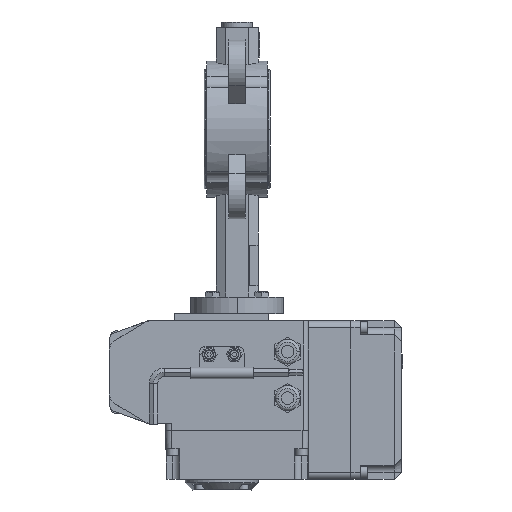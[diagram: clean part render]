
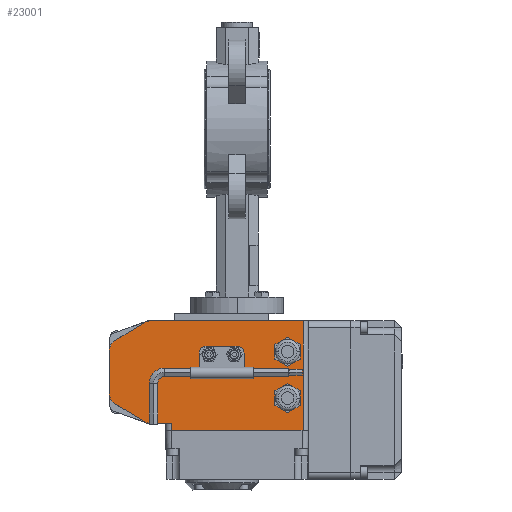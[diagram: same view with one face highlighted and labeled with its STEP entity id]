
A CAD part, left-side view. The second image highlights one B-rep face of the part: STEP entity #23001.
In plain terms, the highlighted planar face has unit normal (-1, 0, 0) as drawn and (0, 0, 1) by its records, which use the part's own axes.
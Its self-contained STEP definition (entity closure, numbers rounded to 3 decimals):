
#18668=CARTESIAN_POINT('',(61.749,28.5,0.));
#18669=DIRECTION('',(0.,0.,1.));
#18670=DIRECTION('',(0.521,0.853,0.));
#18671=AXIS2_PLACEMENT_3D('',#18668,#18669,#18670);
#18673=DIRECTION('',(-0.853,0.521,0.));
#18674=VECTOR('',#18673,24.905);
#18675=CARTESIAN_POINT('',(87.172,22.34,0.));
#18676=LINE('',#18675,#18674);
#18677=CARTESIAN_POINT('',(83.,15.513,0.));
#18678=DIRECTION('',(0.,0.,1.));
#18679=DIRECTION('',(1.,0.,0.));
#18680=AXIS2_PLACEMENT_3D('',#18677,#18678,#18679);
#18682=DIRECTION('',(0.,1.,0.));
#18683=VECTOR('',#18682,31.027);
#18684=CARTESIAN_POINT('',(91.,-15.513,0.));
#18685=LINE('',#18684,#18683);
#18686=CARTESIAN_POINT('',(83.,-15.513,0.));
#18687=DIRECTION('',(0.,0.,1.));
#18688=DIRECTION('',(0.521,-0.853,0.));
#18689=AXIS2_PLACEMENT_3D('',#18686,#18687,#18688);
#18691=DIRECTION('',(0.853,0.521,0.));
#18692=VECTOR('',#18691,24.905);
#18693=CARTESIAN_POINT('',(65.921,-35.326,0.));
#18694=LINE('',#18693,#18692);
#18695=CARTESIAN_POINT('',(61.749,-28.5,0.));
#18696=DIRECTION('',(0.,0.,1.));
#18697=DIRECTION('',(0.,-1.,0.));
#18698=AXIS2_PLACEMENT_3D('',#18695,#18696,#18697);
#18700=DIRECTION('',(1.,0.,0.));
#18701=VECTOR('',#18700,108.749);
#18702=CARTESIAN_POINT('',(-47.,-36.5,0.));
#18703=LINE('',#18702,#18701);
#18704=DIRECTION('',(-1.,0.,0.));
#18705=VECTOR('',#18704,94.);
#18706=CARTESIAN_POINT('',(47.,41.5,0.));
#18707=LINE('',#18706,#18705);
#18708=DIRECTION('',(0.,1.,0.));
#18709=VECTOR('',#18708,5.);
#18710=CARTESIAN_POINT('',(47.,36.5,0.));
#18711=LINE('',#18710,#18709);
#18712=DIRECTION('',(0.866,-0.5,0.));
#18713=VECTOR('',#18712,10.392);
#18714=CARTESIAN_POINT('',(-45.,-19.696,0.));
#18715=LINE('',#18714,#18713);
#18716=DIRECTION('',(0.866,0.5,0.));
#18717=VECTOR('',#18716,10.392);
#18718=CARTESIAN_POINT('',(-36.,-24.892,0.));
#18719=LINE('',#18718,#18717);
#18720=DIRECTION('',(0.,1.,0.));
#18721=VECTOR('',#18720,10.392);
#18722=CARTESIAN_POINT('',(-27.,-19.696,0.));
#18723=LINE('',#18722,#18721);
#18724=DIRECTION('',(-0.866,0.5,0.));
#18725=VECTOR('',#18724,10.392);
#18726=CARTESIAN_POINT('',(-27.,-9.304,0.));
#18727=LINE('',#18726,#18725);
#18728=DIRECTION('',(-0.866,-0.5,0.));
#18729=VECTOR('',#18728,10.392);
#18730=CARTESIAN_POINT('',(-36.,-4.108,0.));
#18731=LINE('',#18730,#18729);
#18732=DIRECTION('',(0.,-1.,0.));
#18733=VECTOR('',#18732,10.392);
#18734=CARTESIAN_POINT('',(-45.,-9.304,0.));
#18735=LINE('',#18734,#18733);
#18736=DIRECTION('',(0.866,-0.5,0.));
#18737=VECTOR('',#18736,10.392);
#18738=CARTESIAN_POINT('',(-45.,13.304,0.));
#18739=LINE('',#18738,#18737);
#18740=DIRECTION('',(0.866,0.5,0.));
#18741=VECTOR('',#18740,10.392);
#18742=CARTESIAN_POINT('',(-36.,8.108,0.));
#18743=LINE('',#18742,#18741);
#18744=DIRECTION('',(0.,1.,0.));
#18745=VECTOR('',#18744,10.392);
#18746=CARTESIAN_POINT('',(-27.,13.304,0.));
#18747=LINE('',#18746,#18745);
#18748=DIRECTION('',(-0.866,0.5,0.));
#18749=VECTOR('',#18748,10.392);
#18750=CARTESIAN_POINT('',(-27.,23.696,0.));
#18751=LINE('',#18750,#18749);
#18752=DIRECTION('',(-0.866,-0.5,0.));
#18753=VECTOR('',#18752,10.392);
#18754=CARTESIAN_POINT('',(-36.,28.892,0.));
#18755=LINE('',#18754,#18753);
#18756=DIRECTION('',(0.,-1.,0.));
#18757=VECTOR('',#18756,10.392);
#18758=CARTESIAN_POINT('',(-45.,23.696,0.));
#18759=LINE('',#18758,#18757);
#18760=CARTESIAN_POINT('',(2.,-12.5,0.));
#18761=DIRECTION('',(0.,0.,1.));
#18762=DIRECTION('',(1.,0.,0.));
#18763=AXIS2_PLACEMENT_3D('',#18760,#18761,#18762);
#18765=CARTESIAN_POINT('',(2.,-12.5,0.));
#18766=DIRECTION('',(0.,0.,1.));
#18767=DIRECTION('',(-1.,0.,0.));
#18768=AXIS2_PLACEMENT_3D('',#18765,#18766,#18767);
#18770=CARTESIAN_POINT('',(20.,-12.5,0.));
#18771=DIRECTION('',(0.,0.,1.));
#18772=DIRECTION('',(1.,0.,0.));
#18773=AXIS2_PLACEMENT_3D('',#18770,#18771,#18772);
#18775=CARTESIAN_POINT('',(20.,-12.5,0.));
#18776=DIRECTION('',(0.,0.,1.));
#18777=DIRECTION('',(-1.,0.,0.));
#18778=AXIS2_PLACEMENT_3D('',#18775,#18776,#18777);
#19254=DIRECTION('',(-1.,0.,0.));
#19255=VECTOR('',#19254,14.749);
#19256=CARTESIAN_POINT('',(61.749,36.5,0.));
#19257=LINE('',#19256,#19255);
#19335=DIRECTION('',(0.,-1.,0.));
#19336=VECTOR('',#19335,78.);
#19337=CARTESIAN_POINT('',(-47.,41.5,0.));
#19338=LINE('',#19337,#19336);
#21942=CARTESIAN_POINT('',(-47.,-36.5,0.));
#21944=VERTEX_POINT('',#21942);
#21947=CARTESIAN_POINT('',(-47.,41.5,0.));
#21949=VERTEX_POINT('',#21947);
#21958=CARTESIAN_POINT('',(47.,41.5,0.));
#21960=VERTEX_POINT('',#21958);
#21964=CARTESIAN_POINT('',(47.,36.5,0.));
#21965=VERTEX_POINT('',#21964);
#21974=CARTESIAN_POINT('',(65.921,35.326,0.));
#21975=CARTESIAN_POINT('',(61.749,36.5,0.));
#21976=VERTEX_POINT('',#21974);
#21977=VERTEX_POINT('',#21975);
#21978=CARTESIAN_POINT('',(91.,15.513,0.));
#21979=CARTESIAN_POINT('',(87.172,22.34,0.));
#21980=VERTEX_POINT('',#21978);
#21981=VERTEX_POINT('',#21979);
#21982=CARTESIAN_POINT('',(87.172,-22.34,0.));
#21983=CARTESIAN_POINT('',(91.,-15.513,0.));
#21984=VERTEX_POINT('',#21982);
#21985=VERTEX_POINT('',#21983);
#21986=CARTESIAN_POINT('',(61.749,-36.5,0.));
#21987=CARTESIAN_POINT('',(65.921,-35.326,0.));
#21988=VERTEX_POINT('',#21986);
#21989=VERTEX_POINT('',#21987);
#22678=CARTESIAN_POINT('',(-45.,-19.696,0.));
#22679=CARTESIAN_POINT('',(-36.,-24.892,0.));
#22680=VERTEX_POINT('',#22678);
#22681=VERTEX_POINT('',#22679);
#22682=CARTESIAN_POINT('',(-27.,-19.696,0.));
#22683=VERTEX_POINT('',#22682);
#22684=CARTESIAN_POINT('',(-27.,-9.304,0.));
#22685=VERTEX_POINT('',#22684);
#22686=CARTESIAN_POINT('',(-36.,-4.108,0.));
#22687=VERTEX_POINT('',#22686);
#22688=CARTESIAN_POINT('',(-45.,-9.304,0.));
#22689=VERTEX_POINT('',#22688);
#22762=CARTESIAN_POINT('',(-45.,13.304,0.));
#22763=VERTEX_POINT('',#22762);
#22764=CARTESIAN_POINT('',(-36.,8.108,0.));
#22765=VERTEX_POINT('',#22764);
#22766=CARTESIAN_POINT('',(-27.,13.304,0.));
#22767=VERTEX_POINT('',#22766);
#22768=CARTESIAN_POINT('',(-27.,23.696,0.));
#22769=VERTEX_POINT('',#22768);
#22770=CARTESIAN_POINT('',(-36.,28.892,0.));
#22771=VERTEX_POINT('',#22770);
#22772=CARTESIAN_POINT('',(-45.,23.696,0.));
#22773=VERTEX_POINT('',#22772);
#22842=CARTESIAN_POINT('',(5.,-12.5,0.));
#22843=CARTESIAN_POINT('',(-1.,-12.5,0.));
#22844=VERTEX_POINT('',#22842);
#22845=VERTEX_POINT('',#22843);
#22846=CARTESIAN_POINT('',(23.,-12.5,0.));
#22847=CARTESIAN_POINT('',(17.,-12.5,0.));
#22848=VERTEX_POINT('',#22846);
#22849=VERTEX_POINT('',#22847);
#22930=CARTESIAN_POINT('',(0.,0.,0.));
#22931=DIRECTION('',(0.,0.,1.));
#22932=DIRECTION('',(1.,0.,0.));
#22933=AXIS2_PLACEMENT_3D('',#22930,#22931,#22932);
#22934=PLANE('',#22933);
#22936=ORIENTED_EDGE('',*,*,#22935,.F.);
#22938=ORIENTED_EDGE('',*,*,#22937,.F.);
#22940=ORIENTED_EDGE('',*,*,#22939,.F.);
#22942=ORIENTED_EDGE('',*,*,#22941,.F.);
#22944=ORIENTED_EDGE('',*,*,#22943,.F.);
#22946=ORIENTED_EDGE('',*,*,#22945,.F.);
#22948=ORIENTED_EDGE('',*,*,#22947,.F.);
#22950=ORIENTED_EDGE('',*,*,#22949,.F.);
#22952=ORIENTED_EDGE('',*,*,#22951,.F.);
#22954=ORIENTED_EDGE('',*,*,#22953,.F.);
#22956=ORIENTED_EDGE('',*,*,#22955,.F.);
#22958=ORIENTED_EDGE('',*,*,#22957,.F.);
#22959=EDGE_LOOP('',(#22936,#22938,#22940,#22942,#22944,#22946,#22948,#22950,
#22952,#22954,#22956,#22958));
#22960=FACE_OUTER_BOUND('',#22959,.F.);
#22962=ORIENTED_EDGE('',*,*,#22961,.T.);
#22964=ORIENTED_EDGE('',*,*,#22963,.T.);
#22966=ORIENTED_EDGE('',*,*,#22965,.T.);
#22968=ORIENTED_EDGE('',*,*,#22967,.T.);
#22970=ORIENTED_EDGE('',*,*,#22969,.T.);
#22972=ORIENTED_EDGE('',*,*,#22971,.T.);
#22973=EDGE_LOOP('',(#22962,#22964,#22966,#22968,#22970,#22972));
#22974=FACE_BOUND('',#22973,.F.);
#22976=ORIENTED_EDGE('',*,*,#22975,.T.);
#22978=ORIENTED_EDGE('',*,*,#22977,.T.);
#22980=ORIENTED_EDGE('',*,*,#22979,.T.);
#22982=ORIENTED_EDGE('',*,*,#22981,.T.);
#22984=ORIENTED_EDGE('',*,*,#22983,.T.);
#22986=ORIENTED_EDGE('',*,*,#22985,.T.);
#22987=EDGE_LOOP('',(#22976,#22978,#22980,#22982,#22984,#22986));
#22988=FACE_BOUND('',#22987,.F.);
#22990=ORIENTED_EDGE('',*,*,#22989,.T.);
#22992=ORIENTED_EDGE('',*,*,#22991,.T.);
#22993=EDGE_LOOP('',(#22990,#22992));
#22994=FACE_BOUND('',#22993,.F.);
#22996=ORIENTED_EDGE('',*,*,#22995,.T.);
#22998=ORIENTED_EDGE('',*,*,#22997,.T.);
#22999=EDGE_LOOP('',(#22996,#22998));
#23000=FACE_BOUND('',#22999,.F.);
#23001=ADVANCED_FACE('',(#22960,#22974,#22988,#22994,#23000),#22934,.T.);
#18672=CIRCLE('',#18671,8.);
#18681=CIRCLE('',#18680,8.);
#18690=CIRCLE('',#18689,8.);
#18699=CIRCLE('',#18698,8.);
#18764=CIRCLE('',#18763,3.);
#18769=CIRCLE('',#18768,3.);
#18774=CIRCLE('',#18773,3.);
#18779=CIRCLE('',#18778,3.);
#22935=EDGE_CURVE('',#21976,#21977,#18672,.T.);
#22937=EDGE_CURVE('',#21981,#21976,#18676,.T.);
#22939=EDGE_CURVE('',#21980,#21981,#18681,.T.);
#22941=EDGE_CURVE('',#21985,#21980,#18685,.T.);
#22943=EDGE_CURVE('',#21984,#21985,#18690,.T.);
#22945=EDGE_CURVE('',#21989,#21984,#18694,.T.);
#22947=EDGE_CURVE('',#21988,#21989,#18699,.T.);
#22949=EDGE_CURVE('',#21944,#21988,#18703,.T.);
#22951=EDGE_CURVE('',#21949,#21944,#19338,.T.);
#22953=EDGE_CURVE('',#21960,#21949,#18707,.T.);
#22955=EDGE_CURVE('',#21965,#21960,#18711,.T.);
#22957=EDGE_CURVE('',#21977,#21965,#19257,.T.);
#22961=EDGE_CURVE('',#22680,#22681,#18715,.T.);
#22963=EDGE_CURVE('',#22681,#22683,#18719,.T.);
#22965=EDGE_CURVE('',#22683,#22685,#18723,.T.);
#22967=EDGE_CURVE('',#22685,#22687,#18727,.T.);
#22969=EDGE_CURVE('',#22687,#22689,#18731,.T.);
#22971=EDGE_CURVE('',#22689,#22680,#18735,.T.);
#22975=EDGE_CURVE('',#22763,#22765,#18739,.T.);
#22977=EDGE_CURVE('',#22765,#22767,#18743,.T.);
#22979=EDGE_CURVE('',#22767,#22769,#18747,.T.);
#22981=EDGE_CURVE('',#22769,#22771,#18751,.T.);
#22983=EDGE_CURVE('',#22771,#22773,#18755,.T.);
#22985=EDGE_CURVE('',#22773,#22763,#18759,.T.);
#22989=EDGE_CURVE('',#22844,#22845,#18764,.T.);
#22991=EDGE_CURVE('',#22845,#22844,#18769,.T.);
#22995=EDGE_CURVE('',#22848,#22849,#18774,.T.);
#22997=EDGE_CURVE('',#22849,#22848,#18779,.T.);
